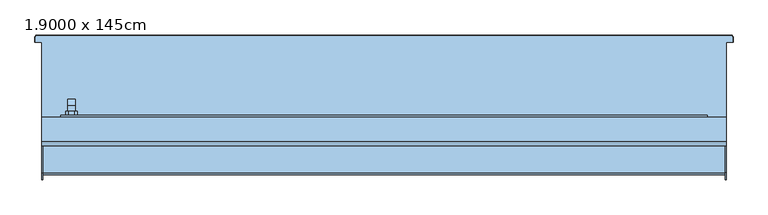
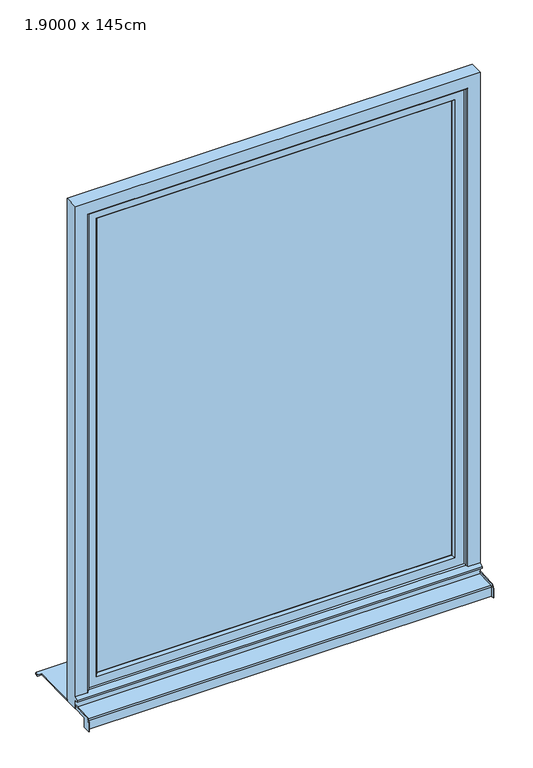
"""IFC4 building model written with IfcOpenShell, lengths in millimetres: window geometry, Fenêtre type 1 : 1.9000 x 145cm."""

from ifc_helpers import new_model, si_unit, frame, origin, place, context, project, spatial, polyline, circle_curve, outline, extrude, faceted_brep, source, transform, mapped, element, save
from ifc_brep_helpers import plane_surface, cylinder_surface, revolved_surface, advanced_brep


def window_1_9000_x_145cm_2e8b5485(model_context):
    return source(origin(), model_context, "Body", "SolidModel", [
        faceted_brep([(-670.5, -22.0, 1306.0), (-670.5, -22.0, 1294.0), (-654.5, -22.0, 1294.0), (-654.5, -22.0, 1306.0), (-654.5, -9.5147186, 1306.0), (-670.5, -9.5147186, 1306.0), (-654.5, -14.4852814, 1294.0), (-654.5, -8.0, 1287.5147186), (-654.5, -8.0, 1287.2282668), (-654.5, -5.2419861, 1208.5355339), (-654.5, 4.0, 1208.5355339), (-654.5, 4.0, 1292.4852814), (-670.5, -14.4852814, 1294.0), (-670.5, 4.0, 1292.4852814), (-670.5, 4.0, 1208.5355339), (-670.5, -5.2419861, 1208.5355339), (-670.5, -7.9900091, 1287.2286157), (-670.5, -8.0, 1287.5147186), (-658.0355339, 4.0, 1205.0), (-658.0355339, -5.1185225, 1205.0), (-666.9644661, -5.1185225, 1205.0), (-666.9644661, 4.0, 1205.0)], [[[0, 1, 2, 3]], [[3, 4, 5, 0]], [[2, 6, 7, 8, 9, 10, 11, 4, 3]], [[1, 12, 6, 2]], [[0, 5, 13, 14, 15, 16, 17, 12, 1]], [[4, 11, 13, 5]], [[6, 12, 17, 7]], [[18, 19, 20, 21]], [[11, 10, 18, 21, 14, 13]], [[17, 16, 8, 7]], [[16, 15, 20, 19, 9, 8]], [[9, 19, 18, 10]], [[14, 21, 20, 15]]]),
        extrude(outline(polyline([(1330.0, -669.5), (1325.0, -674.5), (1275.0, -674.5), (1270.0, -669.5), (1270.0, -655.5), (1275.0, -650.5), (1325.0, -650.5), (1330.0, -655.5), (1330.0, -669.5)])), frame((0.0, -30.0, 0.0), z_axis=(0.0, 1.0, 0.0), x_axis=(0.0, 0.0, 1.0)), (0.0, 0.0, 1.0), 8.0),
        advanced_brep(
        [(-725.0, -140.0, 762.0), (-725.0, -166.5, 762.0), (-725.0, -166.5, 795.1063906), (-725.0, -152.2850393, 810.0858337), (-725.0, -85.0, 813.6120932), (-725.0, -85.0, 802.0963112), (-725.0, -140.0, 799.2138833), (725.0, -140.0, 799.2138833), (725.0, -85.0, 802.0963112), (725.0, -85.0, 813.6120932), (725.0, -152.2850393, 810.0858337), (725.0, -166.5, 795.1063906), (725.0, -166.5, 762.0), (725.0, -140.0, 762.0), (-723.0, -85.0, 813.6120932), (-723.0, -85.0, 803.5983697), (723.0, -85.0, 803.5983697), (723.0, -85.0, 813.6120932), (-723.0, -151.7616798, 800.0995383), (723.0, -151.7616798, 800.0995383), (723.0, -156.5, 795.1063906), (-723.0, -156.5, 795.1063906), (-723.0, -156.5, 762.0), (723.0, -156.5, 762.0), (-723.0, -155.0, 762.0), (723.0, -155.0, 762.0), (723.0, -140.0, 762.0), (723.0, -166.5, 762.0), (-723.0, -166.5, 762.0), (-723.0, -140.0, 762.0), (-723.0, -145.0, 772.0), (723.0, -145.0, 772.0), (-723.0, -146.0606602, 773.0606602), (723.0, -146.0606602, 773.0606602), (-723.0, -155.0, 764.1213203), (723.0, -155.0, 764.1213203), (-723.0, -155.0, 795.0728058), (723.0, -155.0, 795.0728058), (-723.0, -140.0, 799.2138833), (723.0, -140.0, 799.2138833), (723.0, -151.649637, 798.6033517), (-723.0, -151.649637, 798.6033517), (723.0, -166.5, 795.1063906), (723.0, -152.2850393, 810.0858337), (-723.0, -152.2850393, 810.0858337), (-723.0, -166.5, 795.1063906)],
        [
            (0, 1),
            (1, 2),
            (2, 3, circle_curve(frame((-725.0, -151.5, 795.1063906), z_axis=(-1.0, 0.0, 0.0), x_axis=(0.0, -0.05233595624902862, 0.998629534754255)), 15.0)),
            (3, 4),
            (4, 5),
            (5, 6),
            (6, 0),
            (7, 8),
            (8, 9),
            (9, 10),
            (10, 11, circle_curve(frame((725.0, -151.5, 795.1063906), z_axis=(1.0, 0.0, 0.0), x_axis=(0.0, -1.0, 0.0)), 15.0)),
            (11, 12),
            (12, 13),
            (13, 7),
            (14, 15),
            (15, 16),
            (16, 17),
            (17, 9),
            (8, 5),
            (4, 14),
            (18, 19),
            (19, 16),
            (15, 18),
            (20, 21),
            (21, 22),
            (22, 23),
            (23, 20),
            (24, 25),
            (25, 26),
            (26, 13),
            (12, 27),
            (27, 23),
            (22, 28),
            (28, 1),
            (0, 29),
            (29, 24),
            (30, 31),
            (31, 25),
            (24, 30),
            (32, 33),
            (33, 31),
            (30, 32),
            (34, 35),
            (35, 33),
            (32, 34),
            (36, 37),
            (37, 35),
            (34, 36),
            (38, 6),
            (7, 39),
            (39, 40),
            (40, 41),
            (41, 38),
            (41, 36, circle_curve(frame((-723.0, -151.4646089, 795.0728058), z_axis=(1.0, 0.0, 0.0), x_axis=(0.0, 1.0, 0.0)), 3.5353911)),
            (29, 38),
            (37, 40, circle_curve(frame((723.0, -151.4646089, 795.0728058), z_axis=(-1.0, 0.0, 0.0), x_axis=(0.0, 1.0, 0.0)), 3.5353911)),
            (39, 26),
            (18, 21, circle_curve(frame((-723.0, -151.5, 795.1063906), z_axis=(1.0, 0.0, 0.0), x_axis=(0.0, 1.0, 0.0)), 5.0)),
            (20, 19, circle_curve(frame((723.0, -151.5, 795.1063906), z_axis=(-1.0, 0.0, 0.0), x_axis=(0.0, 1.0, 0.0)), 5.0)),
            (27, 42),
            (42, 43, circle_curve(frame((723.0, -151.5, 795.1063906), z_axis=(-1.0, 0.0, 0.0), x_axis=(0.0, -1.0, 0.0)), 15.0)),
            (43, 17),
            (11, 42),
            (10, 43),
            (14, 44),
            (44, 45, circle_curve(frame((-723.0, -151.5, 795.1063906), z_axis=(1.0, 0.0, 0.0), x_axis=(0.0, -0.05233595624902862, 0.998629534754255)), 15.0)),
            (45, 28),
            (3, 44),
            (2, 45),
        ],
        [
            plane_surface(frame((-725.0, -85.0, 802.0963112), z_axis=(-1.0, 0.0, 0.0), x_axis=(0.0, 0.0, 1.0))),
            plane_surface(frame((725.0, -85.0, 802.0963112), z_axis=(1.0, 0.0, 0.0), x_axis=(0.0, 0.0, -1.0))),
            plane_surface(frame((-725.0, -85.0, 802.0963112), z_axis=(0.0, 1.0, 0.0), x_axis=(1.0, 0.0, 0.0))),
            plane_surface(frame((-725.0, -85.0, 803.5983697), z_axis=(0.0, -0.052335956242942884, 0.9986295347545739), x_axis=(1.0, 0.0, 0.0))),
            plane_surface(frame((-725.0, -156.5, 795.1063906), z_axis=(0.0, -1.0, 0.0), x_axis=(1.0, 0.0, 0.0))),
            plane_surface(frame((-725.0, -156.5, 762.0), z_axis=(0.0, 0.0, -1.0), x_axis=(1.0, 0.0, 0.0))),
            plane_surface(frame((-725.0, -155.0, 762.0), z_axis=(0.0, 0.7071067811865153, -0.7071067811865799), x_axis=(1.0, 0.0, 0.0))),
            plane_surface(frame((-725.0, -145.0, 772.0), z_axis=(0.0, 0.7071067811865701, 0.707106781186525), x_axis=(1.0, 0.0, 0.0))),
            plane_surface(frame((-725.0, -146.0606602, 773.0606602), z_axis=(0.0, -0.7071067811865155, 0.7071067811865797), x_axis=(1.0, 0.0, 0.0))),
            plane_surface(frame((-725.0, -155.0, 764.1213203), z_axis=(0.0, 1.0, 0.0), x_axis=(1.0, 0.0, 0.0))),
            plane_surface(frame((-725.0, -151.649637, 798.6033517), z_axis=(0.0, 0.052335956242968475, -0.9986295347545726), x_axis=(1.0, 0.0, 0.0))),
            plane_surface(frame((-723.0, -155.0, 798.4277666), z_axis=(1.0, 0.0, 0.0), x_axis=(0.0, 0.9986295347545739, 0.05233595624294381))),
            plane_surface(frame((-725.0, -140.0, 762.0), z_axis=(0.0, 1.0, 0.0), x_axis=(1.0, 0.0, 0.0))),
            plane_surface(frame((723.0, -155.0, 798.4277666), z_axis=(-1.0, 0.0, 0.0), x_axis=(0.0, 0.0, -1.0))),
            plane_surface(frame((723.0, -140.0, 762.0), z_axis=(0.0, 1.0, 0.0), x_axis=(1.0, 0.0, 0.0))),
            cylinder_surface(frame((725.0, -151.5, 795.1063906), z_axis=(-1.0, 0.0, 0.0), x_axis=(0.0, 1.0, 0.0)), 5.0),
            revolved_surface(polyline([(723.0, -147.9292178, 795.0728058), (-723.0, -147.9292178, 795.0728058)]), (725.0, -151.4646089, 795.0728058), (1.0, 0.0, 0.0)),
            plane_surface(frame((723.0, -156.5, 762.0), z_axis=(-1.0, 0.0, 0.0), x_axis=(0.0, 0.0, 1.0))),
            plane_surface(frame((723.0, -166.5, 762.0), z_axis=(0.0, -1.0, 0.0), x_axis=(0.0, 0.0, 1.0))),
            cylinder_surface(frame((725.0, -151.5, 795.1063906), z_axis=(1.0, 0.0, 0.0), x_axis=(0.0, -1.0, 0.0)), 15.0),
            plane_surface(frame((723.0, -152.2850393, 810.0858337), z_axis=(0.0, -0.052335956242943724, 0.9986295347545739), x_axis=(0.0, 0.9986295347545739, 0.052335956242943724))),
            plane_surface(frame((-723.0, -85.0, 813.6120932), z_axis=(1.0, 0.0, 0.0), x_axis=(0.0, 0.9986295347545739, 0.05233595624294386))),
            plane_surface(frame((-725.0, -85.0, 813.6120932), z_axis=(0.0, -0.05233595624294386, 0.9986295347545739), x_axis=(1.0, 0.0, 0.0))),
            cylinder_surface(frame((-725.0, -151.5, 795.1063906), z_axis=(-1.0, 0.0, 0.0), x_axis=(0.0, -0.05233595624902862, 0.998629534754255)), 15.0),
            plane_surface(frame((-723.0, -166.5, 795.1063906), z_axis=(0.0, -1.0, 0.0), x_axis=(0.0, 0.0, -1.0))),
        ],
        [
            (0, [[1, 2, 3, 4, 5, 6, 7]]),
            (1, [[8, 9, 10, 11, 12, 13, 14]]),
            (2, [[15, 16, 17, 18, -9, 19, -5, 20]]),
            (3, [[21, 22, -16, 23]]),
            (4, [[24, 25, 26, 27]]),
            (5, [[28, 29, 30, -13, 31, 32, -26, 33, 34, -1, 35, 36]]),
            (6, [[37, 38, -28, 39]]),
            (7, [[40, 41, -37, 42]]),
            (8, [[43, 44, -40, 45]]),
            (9, [[46, 47, -43, 48]]),
            (10, [[49, -6, -19, -8, 50, 51, 52, 53]]),
            (11, [[-53, 54, -48, -45, -42, -39, -36, 55]]),
            (12, [[-35, -7, -49, -55]]),
            (13, [[-38, -41, -44, -47, 56, -51, 57, -29]]),
            (14, [[-50, -14, -30, -57]]),
            (15, [[-21, 58, -24, 59]]),
            (16, [[-52, -56, -46, -54]]),
            (17, [[60, 61, 62, -17, -22, -59, -27, -32]]),
            (18, [[-12, 63, -60, -31]]),
            (19, [[64, -61, -63, -11]]),
            (20, [[-10, -18, -62, -64]]),
            (21, [[65, 66, 67, -33, -25, -58, -23, -15]]),
            (22, [[68, -65, -20, -4]]),
            (23, [[69, -66, -68, -3]]),
            (24, [[-34, -67, -69, -2]]),
        ],
    ),
        extrude(outline(polyline([(-635.0, -40.0), (635.0, -40.0), (635.0, -60.0), (-635.0, -60.0), (-635.0, -40.0)])), frame((0.0, 0.0, 890.0), z_axis=(0.0, 0.0, 1.0), x_axis=(1.0, 0.0, 0.0)), (0.0, 0.0, 1.0), 1720.0),
        faceted_brep([(-685.0, -30.0, 840.0), (685.0, -30.0, 840.0), (685.0, -70.0, 840.0), (-685.0, -70.0, 840.0), (685.0, -30.0, 2660.0), (685.0, -70.0, 2660.0), (-685.0, -70.0, 2660.0), (642.0710678, -70.0, 2617.0710678), (642.0710678, -70.0, 882.9289322), (-642.0710678, -70.0, 882.9289322), (-642.0710678, -70.0, 2617.0710678), (-685.0, -30.0, 2660.0), (642.0710678, -30.0, 882.9289322), (642.0710678, -30.0, 2617.0710678), (-642.0710678, -30.0, 2617.0710678), (-642.0710678, -30.0, 882.9289322), (-635.0, -37.0710678, 890.0), (635.0, -37.0710678, 890.0), (635.0, -37.0710678, 2610.0), (635.0, -62.9289322, 890.0), (635.0, -62.9289322, 2610.0), (-635.0, -62.9289322, 890.0), (-635.0, -37.0710678, 2610.0), (-635.0, -62.9289322, 2610.0)], [[[0, 1, 2, 3]], [[1, 4, 5, 2]], [[2, 5, 6, 3], [7, 8, 9, 10]], [[4, 1, 0, 11], [12, 13, 14, 15]], [[16, 17, 12, 15]], [[17, 18, 13, 12]], [[19, 20, 18, 17]], [[9, 8, 19, 21]], [[8, 7, 20, 19]], [[11, 0, 3, 6]], [[22, 16, 15, 14]], [[23, 21, 16, 22]], [[10, 9, 21, 23]], [[21, 19, 17, 16]], [[4, 11, 6, 5]], [[18, 22, 14, 13]], [[7, 10, 23, 20]], [[20, 23, 22, 18]]]),
        faceted_brep([(725.0, -85.0, 800.0), (725.0, -35.0, 800.0), (725.0, -35.0, 2700.0), (725.0, -85.0, 2700.0), (725.0, -85.0, 845.0), (725.0, -95.0, 835.0), (725.0, -95.0, 830.0), (725.0, -85.0, 830.0), (-725.0, -85.0, 830.0), (-725.0, -85.0, 800.0), (-725.0, -95.0, 830.0), (-725.0, -95.0, 835.0), (680.0, -85.0, 845.0), (675.0, -80.0, 850.0), (-675.0, -80.0, 850.0), (-680.0, -85.0, 845.0), (-725.0, -85.0, 845.0), (-725.0, -85.0, 2700.0), (-680.0, -85.0, 2655.0), (680.0, -85.0, 2655.0), (-725.0, -35.0, 800.0), (-725.0, -35.0, 2700.0), (685.0, -35.0, 840.0), (685.0, -35.0, 2660.0), (-685.0, -35.0, 2660.0), (-685.0, -35.0, 840.0), (-685.0, -70.0, 840.0), (685.0, -70.0, 840.0), (-685.0, -70.0, 2660.0), (685.0, -70.0, 2660.0), (675.0, -70.0, 850.0), (675.0, -70.0, 2650.0), (-675.0, -70.0, 2650.0), (-675.0, -70.0, 850.0), (-675.0, -80.0, 2650.0), (675.0, -80.0, 2650.0)], [[[0, 1, 2, 3, 4, 5, 6, 7]], [[7, 8, 9, 0]], [[6, 10, 8, 7]], [[5, 11, 10, 6]], [[5, 4, 12, 13, 14, 15, 16, 11]], [[17, 16, 15, 18, 19, 12, 4, 3]], [[1, 20, 21, 2], [22, 23, 24, 25]], [[0, 9, 20, 1]], [[9, 8, 10, 11, 16, 17, 21, 20]], [[25, 26, 27, 22]], [[26, 25, 24, 28]], [[22, 27, 29, 23]], [[29, 27, 26, 28], [30, 31, 32, 33]], [[33, 14, 13, 30]], [[34, 14, 33, 32]], [[31, 30, 13, 35]], [[35, 13, 12, 19]], [[18, 15, 14, 34]], [[28, 24, 23, 29]], [[3, 2, 21, 17]], [[31, 35, 34, 32]], [[18, 34, 35, 19]]]),
        advanced_brep(
        [(725.0, 125.0, 805.0), (738.9971508, 125.0, 805.0), (738.9971508, 135.0, 805.0), (735.0, 138.9971508, 805.0), (-735.0, 138.9971508, 805.0), (-738.9971508, 135.0, 805.0), (-738.9971508, 125.0, 805.0), (-725.0, 125.0, 805.0), (-725.0, -35.0, 805.0), (725.0, -35.0, 805.0), (-725.0, 125.0, 800.0), (-738.9971508, 125.0, 800.0), (-738.9971508, 135.0, 800.0), (-735.0, 138.9971508, 800.0), (735.0, 138.9971508, 800.0), (738.9971508, 135.0, 800.0), (738.9971508, 125.0, 800.0), (725.0, 125.0, 800.0), (725.0, -35.0, 800.0), (-725.0, -35.0, 800.0), (-740.0, 135.0, 801.0028492), (-740.0, 125.0, 801.0028492), (-740.0, 125.0, 803.9971508), (-740.0, 135.0, 803.9971508), (740.0, 125.0, 801.0028492), (740.0, 125.0, 803.9971508), (740.0, 135.0, 801.0028492), (740.0, 135.0, 803.9971508), (735.0, 140.0, 801.0028492), (-735.0, 140.0, 801.0028492), (-735.0, 140.0, 803.9971508), (735.0, 140.0, 803.9971508)],
        [
            (0, 1),
            (1, 2),
            (2, 3, circle_curve(frame((735.0, 135.0, 805.0), z_axis=(0.0, 0.0, 1.0), x_axis=(0.0, 1.0, 0.0)), 3.9971508)),
            (3, 4),
            (4, 5, circle_curve(frame((-735.0, 135.0, 805.0), z_axis=(0.0, 0.0, 1.0), x_axis=(-1.0, 0.0, 0.0)), 3.9971508)),
            (5, 6),
            (6, 7),
            (7, 8),
            (8, 9),
            (9, 0),
            (10, 11),
            (11, 12),
            (12, 13, circle_curve(frame((-735.0, 135.0, 800.0), z_axis=(0.0, 0.0, -1.0), x_axis=(-1.0, 0.0, 0.0)), 3.9971508)),
            (13, 14),
            (14, 15, circle_curve(frame((735.0, 135.0, 800.0), z_axis=(0.0, 0.0, -1.0), x_axis=(0.0, 1.0, 0.0)), 3.9971508)),
            (15, 16),
            (16, 17),
            (17, 18),
            (18, 19),
            (19, 10),
            (20, 21),
            (21, 22),
            (22, 23),
            (23, 20),
            (6, 22),
            (21, 11),
            (10, 7),
            (19, 8),
            (18, 9),
            (17, 0),
            (16, 24),
            (24, 25),
            (25, 1),
            (24, 26),
            (26, 27),
            (27, 25),
            (28, 29),
            (29, 30),
            (30, 31),
            (31, 28),
            (31, 27, circle_curve(frame((735.0, 135.0, 803.9971508), z_axis=(0.0, 0.0, -1.0), x_axis=(0.0, 1.0, 0.0)), 5.0)),
            (26, 28, circle_curve(frame((735.0, 135.0, 801.0028492), z_axis=(0.0, 0.0, 1.0), x_axis=(0.0, 1.0, 0.0)), 5.0)),
            (23, 30, circle_curve(frame((-735.0, 135.0, 803.9971508), z_axis=(0.0, 0.0, -1.0), x_axis=(0.0, 1.0, 0.0)), 5.0)),
            (29, 20, circle_curve(frame((-735.0, 135.0, 801.0028492), z_axis=(0.0, 0.0, 1.0), x_axis=(0.0, 1.0, 0.0)), 5.0)),
            (5, 23),
            (20, 12),
            (4, 30),
            (29, 13),
            (3, 31),
            (28, 14),
            (2, 27),
            (26, 15),
        ],
        [
            plane_surface(frame((-740.0, 125.0, 805.0), z_axis=(0.0, 0.0, 1.0), x_axis=(0.0, 1.0, 0.0))),
            plane_surface(frame((-740.0, 125.0, 800.0), z_axis=(0.0, 0.0, -1.0), x_axis=(0.0, -1.0, 0.0))),
            plane_surface(frame((-740.0, 135.0, 800.0), z_axis=(-1.0, 0.0, 0.0), x_axis=(0.0, 0.0, 1.0))),
            plane_surface(frame((-740.0, 125.0, 800.0), z_axis=(0.0, -1.0, 0.0), x_axis=(0.0, 0.0, 1.0))),
            plane_surface(frame((-725.0, 125.0, 800.0), z_axis=(-1.0, 0.0, 0.0), x_axis=(0.0, 0.0, 1.0))),
            plane_surface(frame((-725.0, -35.0, 800.0), z_axis=(0.0, -1.0, 0.0), x_axis=(0.0, 0.0, 1.0))),
            plane_surface(frame((725.0, -35.0, 800.0), z_axis=(1.0, 0.0, 0.0), x_axis=(0.0, 0.0, 1.0))),
            plane_surface(frame((725.0, 125.0, 800.0), z_axis=(0.0, -1.0, 0.0), x_axis=(0.0, 0.0, 1.0))),
            plane_surface(frame((740.0, 125.0, 800.0), z_axis=(1.0, 0.0, 0.0), x_axis=(0.0, 0.0, 1.0))),
            plane_surface(frame((735.0, 140.0, 800.0), z_axis=(0.0, 1.0, 0.0), x_axis=(0.0, 0.0, 1.0))),
            cylinder_surface(frame((735.0, 135.0, 805.0), z_axis=(0.0, 0.0, -1.0), x_axis=(0.0, 1.0, 0.0)), 5.0),
            cylinder_surface(frame((-735.0, 135.0, 805.0), z_axis=(0.0, 0.0, -1.0), x_axis=(0.0, 1.0, 0.0)), 5.0),
            plane_surface(frame((-738.9971508, 125.0, 805.0), z_axis=(-0.7071067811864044, 0.0, 0.7071067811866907), x_axis=(0.0, 1.0, 0.0))),
            plane_surface(frame((-740.0, 125.0, 801.0028492), z_axis=(-0.7071067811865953, 0.0, -0.7071067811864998), x_axis=(0.0, 1.0, 0.0))),
            revolved_surface(polyline([(-740.0, 135.0, 803.9971508), (-738.9971508, 135.0, 805.0)]), (-735.0, 135.0, 805.0), (0.0, 0.0, 1.0)),
            revolved_surface(polyline([(-738.9971508, 135.0, 800.0), (-740.0, 135.0, 801.0028492)]), (-735.0, 135.0, 805.0), (0.0, 0.0, 1.0)),
            plane_surface(frame((-735.0, 138.9971508, 805.0), z_axis=(0.0, 0.7071067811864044, 0.7071067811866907), x_axis=(1.0, 0.0, 0.0))),
            plane_surface(frame((-735.0, 140.0, 801.0028492), z_axis=(0.0, 0.7071067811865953, -0.7071067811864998), x_axis=(1.0, 0.0, 0.0))),
            revolved_surface(polyline([(735.0, 140.0, 803.9971508), (735.0, 138.9971508, 805.0)]), (735.0, 135.0, 805.0), (0.0, 0.0, 1.0)),
            revolved_surface(polyline([(735.0, 138.9971508, 800.0), (735.0, 140.0, 801.0028492)]), (735.0, 135.0, 805.0), (0.0, 0.0, 1.0)),
            plane_surface(frame((738.9971508, 135.0, 805.0), z_axis=(0.7071067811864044, 0.0, 0.7071067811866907), x_axis=(0.0, -1.0, 0.0))),
            plane_surface(frame((740.0, 135.0, 801.0028492), z_axis=(0.7071067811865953, 0.0, -0.7071067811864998), x_axis=(0.0, -1.0, 0.0))),
        ],
        [
            (0, [[1, 2, 3, 4, 5, 6, 7, 8, 9, 10]]),
            (1, [[11, 12, 13, 14, 15, 16, 17, 18, 19, 20]]),
            (2, [[21, 22, 23, 24]]),
            (3, [[-7, 25, -22, 26, -11, 27]]),
            (4, [[-27, -20, 28, -8]]),
            (5, [[-28, -19, 29, -9]]),
            (6, [[-29, -18, 30, -10]]),
            (7, [[-17, 31, 32, 33, -1, -30]]),
            (8, [[34, 35, 36, -32]]),
            (9, [[37, 38, 39, 40]]),
            (10, [[41, -35, 42, -40]]),
            (11, [[43, -38, 44, -24]]),
            (12, [[-23, -25, -6, 45]]),
            (13, [[-12, -26, -21, 46]]),
            (14, [[-5, 47, -43, -45]]),
            (15, [[-44, 48, -13, -46]]),
            (16, [[-4, 49, -39, -47]]),
            (17, [[-37, 50, -14, -48]]),
            (18, [[-3, 51, -41, -49]]),
            (19, [[-42, 52, -15, -50]]),
            (20, [[-2, -33, -36, -51]]),
            (21, [[-34, -31, -16, -52]]),
        ],
    ),
    ])


if __name__ == "__main__":
    model = new_model("IFC4")
    model_context = context("Model", 3, world=origin())
    ifc_project = project(units=[si_unit("LENGTHUNIT", "METRE", prefix="MILLI")], contexts=[model_context])
    site = spatial("IfcSite", under=ifc_project)
    building = spatial("IfcBuilding", under=site)
    placement = place(None, origin())
    window_1_9000_x_145cm_shape = window_1_9000_x_145cm_2e8b5485(model_context)
    element("IfcWindow", 1, ObjectType="Fenêtre type 1 : 1.9000 x 145cm", at=placement, inside=building, context=model_context, shape_type="MappedRepresentation", body=[
        mapped(window_1_9000_x_145cm_shape, transform((0.0, 0.0, 0.0), x_axis=(1.0, 0.0, 0.0), y_axis=(0.0, 1.0, 0.0), z_axis=(0.0, 0.0, 1.0))),
    ])
    save(model, "model.ifc")
